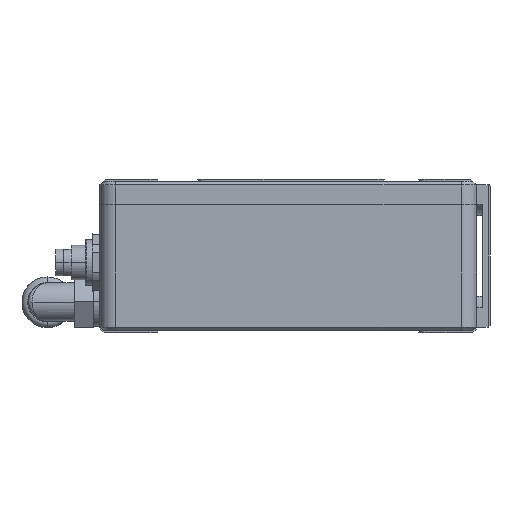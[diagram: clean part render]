
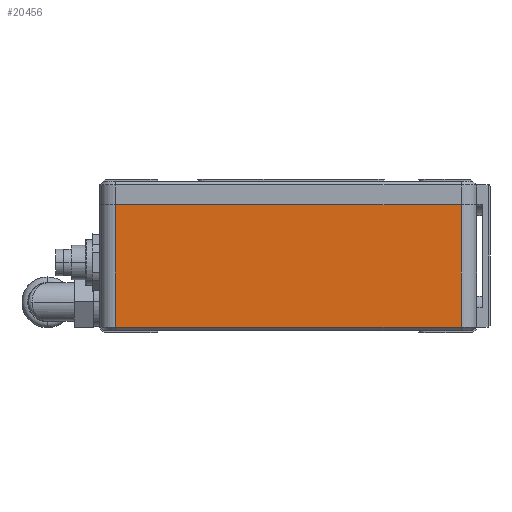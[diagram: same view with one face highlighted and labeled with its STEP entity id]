
A CAD part, left-side view. The second image highlights one B-rep face of the part: STEP entity #20456.
In plain terms, the highlighted planar face has unit normal (-1, 0, 0) as drawn and (0, 0, 1) by its records, which use the part's own axes.
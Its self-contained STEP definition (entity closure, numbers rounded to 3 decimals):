
#771 = CARTESIAN_POINT ( 'NONE',  ( -45., 32.8, 134. ) ) ;
#777 = DIRECTION ( 'NONE',  ( 1., 0., 0. ) ) ;
#5030 = EDGE_CURVE ( 'NONE', #7550, #6766, #36047, .T. ) ;
#5031 = EDGE_CURVE ( 'NONE', #6766, #6788, #36053, .T. ) ;
#5032 = EDGE_CURVE ( 'NONE', #7531, #6788, #36059, .T. ) ;
#6766 = VERTEX_POINT ( 'NONE', #18102 ) ;
#6788 = VERTEX_POINT ( 'NONE', #18073 ) ;
#7531 = VERTEX_POINT ( 'NONE', #17994 ) ;
#7550 = VERTEX_POINT ( 'NONE', #17975 ) ;
#7818 = EDGE_LOOP ( 'NONE', ( #19550, #19382, #19533, #19600 ) ) ;
#10260 = LINE ( 'NONE', #771, #10262 ) ;
#10262 = VECTOR ( 'NONE', #777, 1000. ) ;
#13003 = FACE_OUTER_BOUND ( 'NONE', #7818, .T. ) ;
#13715 = CARTESIAN_POINT ( 'NONE',  ( -45., 32.8, 134. ) ) ;
#13717 = PLANE ( 'NONE',  #15964 ) ;
#13720 = DIRECTION ( 'NONE',  ( 0., 0., -1. ) ) ;
#13721 = DIRECTION ( 'NONE',  ( -1., 0., 0. ) ) ;
#15964 = AXIS2_PLACEMENT_3D ( 'NONE', #13715, #13720, #13721 ) ;
#17975 = CARTESIAN_POINT ( 'NONE',  ( -45., 32.8, 134. ) ) ;
#17994 = CARTESIAN_POINT ( 'NONE',  ( 45., 32.8, 134. ) ) ;
#18073 = CARTESIAN_POINT ( 'NONE',  ( 45., 1., 134. ) ) ;
#18102 = CARTESIAN_POINT ( 'NONE',  ( -45., 1., 134. ) ) ;
#19382 = ORIENTED_EDGE ( 'NONE', *, *, #5031, .T. ) ;
#19533 = ORIENTED_EDGE ( 'NONE', *, *, #5032, .F. ) ;
#19550 = ORIENTED_EDGE ( 'NONE', *, *, #5030, .T. ) ;
#19600 = ORIENTED_EDGE ( 'NONE', *, *, #35358, .F. ) ;
#20456 = ADVANCED_FACE ( 'NONE', ( #13003 ), #13717, .F. ) ;
#28360 = CARTESIAN_POINT ( 'NONE',  ( 45., 1., 134. ) ) ;
#28441 = CARTESIAN_POINT ( 'NONE',  ( -45., 32.8, 134. ) ) ;
#28500 = DIRECTION ( 'NONE',  ( 0., -1., 0. ) ) ;
#28538 = CARTESIAN_POINT ( 'NONE',  ( 45., 32.8, 134. ) ) ;
#28573 = DIRECTION ( 'NONE',  ( 1., 0., 0. ) ) ;
#28724 = DIRECTION ( 'NONE',  ( 0., -1., 0. ) ) ;
#35358 = EDGE_CURVE ( 'NONE', #7550, #7531, #10260, .T. ) ;
#36047 = LINE ( 'NONE', #28441, #36057 ) ;
#36053 = LINE ( 'NONE', #28360, #36061 ) ;
#36057 = VECTOR ( 'NONE', #28724, 1000. ) ;
#36059 = LINE ( 'NONE', #28538, #36065 ) ;
#36061 = VECTOR ( 'NONE', #28573, 1000. ) ;
#36065 = VECTOR ( 'NONE', #28500, 1000. ) ;
